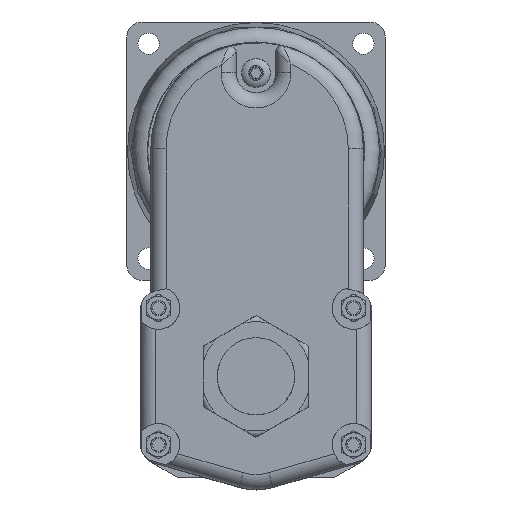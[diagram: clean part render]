
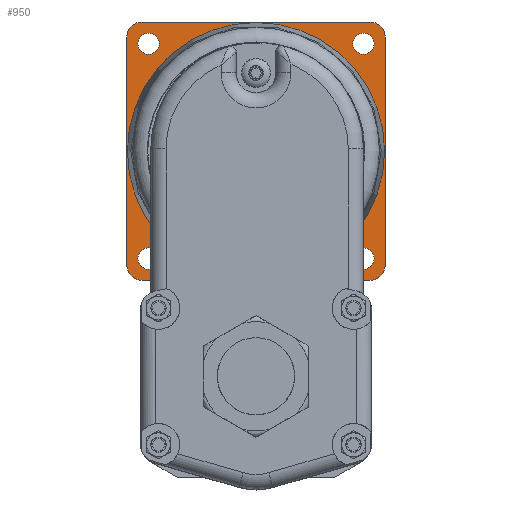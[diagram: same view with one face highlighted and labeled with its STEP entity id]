
A CAD part, top view. The second image highlights one B-rep face of the part: STEP entity #950.
In plain terms, the highlighted planar face has unit normal (0, 0, 1).
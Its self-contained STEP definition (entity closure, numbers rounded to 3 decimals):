
#314 = EDGE_CURVE ( 'NONE', #10910, #10910, #3162, .T. ) ;
#365 = EDGE_CURVE ( 'NONE', #11554, #11557, #5435, .T. ) ;
#369 = EDGE_CURVE ( 'NONE', #10922, #10922, #5443, .T. ) ;
#371 = EDGE_CURVE ( 'NONE', #11559, #11561, #5437, .T. ) ;
#374 = EDGE_CURVE ( 'NONE', #10930, #10930, #5449, .T. ) ;
#375 = EDGE_CURVE ( 'NONE', #11557, #11559, #5451, .T. ) ;
#376 = EDGE_CURVE ( 'NONE', #11561, #11563, #5453, .T. ) ;
#377 = EDGE_CURVE ( 'NONE', #11563, #11562, #5442, .T. ) ;
#378 = EDGE_CURVE ( 'NONE', #11562, #11564, #5455, .T. ) ;
#379 = EDGE_CURVE ( 'NONE', #11564, #11565, #5441, .T. ) ;
#380 = EDGE_CURVE ( 'NONE', #11565, #11554, #5458, .T. ) ;
#382 = EDGE_CURVE ( 'NONE', #10932, #10932, #5460, .T. ) ;
#384 = EDGE_CURVE ( 'NONE', #10934, #10934, #5463, .T. ) ;
#950 = ADVANCED_FACE ( 'NONE', ( #7600, #7603, #7607, #7609, #7604, #7602 ), #7047, .F. ) ;
#1153 = ORIENTED_EDGE ( 'NONE', *, *, #369, .F. ) ;
#1154 = ORIENTED_EDGE ( 'NONE', *, *, #374, .F. ) ;
#1155 = ORIENTED_EDGE ( 'NONE', *, *, #365, .T. ) ;
#1156 = ORIENTED_EDGE ( 'NONE', *, *, #375, .T. ) ;
#1157 = ORIENTED_EDGE ( 'NONE', *, *, #371, .T. ) ;
#1158 = ORIENTED_EDGE ( 'NONE', *, *, #376, .T. ) ;
#1159 = ORIENTED_EDGE ( 'NONE', *, *, #377, .T. ) ;
#1160 = ORIENTED_EDGE ( 'NONE', *, *, #378, .T. ) ;
#1161 = ORIENTED_EDGE ( 'NONE', *, *, #379, .T. ) ;
#1162 = ORIENTED_EDGE ( 'NONE', *, *, #380, .T. ) ;
#1163 = ORIENTED_EDGE ( 'NONE', *, *, #382, .F. ) ;
#1164 = ORIENTED_EDGE ( 'NONE', *, *, #384, .F. ) ;
#1165 = ORIENTED_EDGE ( 'NONE', *, *, #314, .T. ) ;
#2070 = EDGE_LOOP ( 'NONE', ( #1165 ) ) ;
#2071 = EDGE_LOOP ( 'NONE', ( #1164 ) ) ;
#2072 = EDGE_LOOP ( 'NONE', ( #1163 ) ) ;
#2073 = EDGE_LOOP ( 'NONE', ( #1155, #1156, #1157, #1158, #1159, #1160, #1161, #1162 ) ) ;
#2074 = EDGE_LOOP ( 'NONE', ( #1154 ) ) ;
#2081 = EDGE_LOOP ( 'NONE', ( #1153 ) ) ;
#3162 = CIRCLE ( 'NONE', #3492, 42.331 ) ;
#3492 = AXIS2_PLACEMENT_3D ( 'NONE', #4278, #4286, #4287 ) ;
#3519 = AXIS2_PLACEMENT_3D ( 'NONE', #4456, #4457, #4458 ) ;
#3522 = AXIS2_PLACEMENT_3D ( 'NONE', #4417, #4418, #4419 ) ;
#3526 = AXIS2_PLACEMENT_3D ( 'NONE', #4431, #4438, #4439 ) ;
#3528 = AXIS2_PLACEMENT_3D ( 'NONE', #4409, #4432, #4433 ) ;
#3529 = AXIS2_PLACEMENT_3D ( 'NONE', #4428, #4435, #4436 ) ;
#3530 = AXIS2_PLACEMENT_3D ( 'NONE', #4434, #4443, #4444 ) ;
#3531 = AXIS2_PLACEMENT_3D ( 'NONE', #4437, #4448, #4449 ) ;
#3532 = AXIS2_PLACEMENT_3D ( 'NONE', #4442, #4452, #4453 ) ;
#4278 = CARTESIAN_POINT ( 'NONE',  ( 0., 74.4, -11.3 ) ) ;
#4286 = DIRECTION ( 'NONE',  ( 0., 0., -1. ) ) ;
#4287 = DIRECTION ( 'NONE',  ( -1., 0., 0. ) ) ;
#4406 = CARTESIAN_POINT ( 'NONE',  ( -42.5, 116.9, -11.3 ) ) ;
#4407 = DIRECTION ( 'NONE',  ( 0., -1., 0. ) ) ;
#4409 = CARTESIAN_POINT ( 'NONE',  ( -35.355, 39.045, -11.3 ) ) ;
#4417 = CARTESIAN_POINT ( 'NONE',  ( 35.355, 109.755, -11.3 ) ) ;
#4418 = DIRECTION ( 'NONE',  ( 0., 0., 1. ) ) ;
#4419 = DIRECTION ( 'NONE',  ( 1., 0., 0. ) ) ;
#4423 = CARTESIAN_POINT ( 'NONE',  ( -42.5, 31.9, -11.3 ) ) ;
#4424 = DIRECTION ( 'NONE',  ( 1., 0., 0. ) ) ;
#4428 = CARTESIAN_POINT ( 'NONE',  ( -37.5, 36.9, -11.3 ) ) ;
#4431 = CARTESIAN_POINT ( 'NONE',  ( 37.5, 36.9, -11.3 ) ) ;
#4432 = DIRECTION ( 'NONE',  ( 0., 0., 1. ) ) ;
#4433 = DIRECTION ( 'NONE',  ( 1., 0., 0. ) ) ;
#4434 = CARTESIAN_POINT ( 'NONE',  ( 37.5, 111.9, -11.3 ) ) ;
#4435 = DIRECTION ( 'NONE',  ( 0., 0., 1. ) ) ;
#4436 = DIRECTION ( 'NONE',  ( -1., 0., 0. ) ) ;
#4437 = CARTESIAN_POINT ( 'NONE',  ( -37.5, 111.9, -11.3 ) ) ;
#4438 = DIRECTION ( 'NONE',  ( 0., 0., 1. ) ) ;
#4439 = DIRECTION ( 'NONE',  ( -1., 0., 0. ) ) ;
#4440 = CARTESIAN_POINT ( 'NONE',  ( 42.5, 116.9, -11.3 ) ) ;
#4441 = DIRECTION ( 'NONE',  ( 0., 1., 0. ) ) ;
#4442 = CARTESIAN_POINT ( 'NONE',  ( 35.355, 39.045, -11.3 ) ) ;
#4443 = DIRECTION ( 'NONE',  ( 0., 0., 1. ) ) ;
#4444 = DIRECTION ( 'NONE',  ( -1., 0., 0. ) ) ;
#4445 = CARTESIAN_POINT ( 'NONE',  ( -42.5, 116.9, -11.3 ) ) ;
#4446 = DIRECTION ( 'NONE',  ( -1., 0., 0. ) ) ;
#4448 = DIRECTION ( 'NONE',  ( 0., 0., 1. ) ) ;
#4449 = DIRECTION ( 'NONE',  ( -1., 0., 0. ) ) ;
#4452 = DIRECTION ( 'NONE',  ( 0., 0., 1. ) ) ;
#4453 = DIRECTION ( 'NONE',  ( 1., 0., 0. ) ) ;
#4456 = CARTESIAN_POINT ( 'NONE',  ( -35.355, 109.755, -11.3 ) ) ;
#4457 = DIRECTION ( 'NONE',  ( 0., 0., 1. ) ) ;
#4458 = DIRECTION ( 'NONE',  ( 1., 0., 0. ) ) ;
#5435 = LINE ( 'NONE', #4406, #5436 ) ;
#5436 = VECTOR ( 'NONE', #4407, 1000. ) ;
#5437 = LINE ( 'NONE', #4423, #5444 ) ;
#5441 = LINE ( 'NONE', #4445, #5452 ) ;
#5442 = LINE ( 'NONE', #4440, #5450 ) ;
#5443 = CIRCLE ( 'NONE', #3522, 3.5 ) ;
#5444 = VECTOR ( 'NONE', #4424, 1000. ) ;
#5449 = CIRCLE ( 'NONE', #3528, 3.5 ) ;
#5450 = VECTOR ( 'NONE', #4441, 1000. ) ;
#5451 = CIRCLE ( 'NONE', #3529, 5. ) ;
#5452 = VECTOR ( 'NONE', #4446, 1000. ) ;
#5453 = CIRCLE ( 'NONE', #3526, 5. ) ;
#5455 = CIRCLE ( 'NONE', #3530, 5. ) ;
#5458 = CIRCLE ( 'NONE', #3531, 5. ) ;
#5460 = CIRCLE ( 'NONE', #3532, 3.5 ) ;
#5463 = CIRCLE ( 'NONE', #3519, 3.5 ) ;
#7046 = CARTESIAN_POINT ( 'NONE',  ( 42.5, 116.9, -11.3 ) ) ;
#7047 = PLANE ( 'NONE',  #7876 ) ;
#7049 = DIRECTION ( 'NONE',  ( 0., 0., -1. ) ) ;
#7050 = DIRECTION ( 'NONE',  ( -1., 0., 0. ) ) ;
#7600 = FACE_BOUND ( 'NONE', #2081, .T. ) ;
#7602 = FACE_BOUND ( 'NONE', #2070, .T. ) ;
#7603 = FACE_BOUND ( 'NONE', #2074, .T. ) ;
#7604 = FACE_BOUND ( 'NONE', #2071, .T. ) ;
#7607 = FACE_OUTER_BOUND ( 'NONE', #2073, .T. ) ;
#7609 = FACE_BOUND ( 'NONE', #2072, .T. ) ;
#7876 = AXIS2_PLACEMENT_3D ( 'NONE', #7046, #7049, #7050 ) ;
#10640 = CARTESIAN_POINT ( 'NONE',  ( -42.5, 111.9, -11.3 ) ) ;
#10643 = CARTESIAN_POINT ( 'NONE',  ( -42.5, 36.9, -11.3 ) ) ;
#10645 = CARTESIAN_POINT ( 'NONE',  ( -37.5, 31.9, -11.3 ) ) ;
#10647 = CARTESIAN_POINT ( 'NONE',  ( 37.5, 31.9, -11.3 ) ) ;
#10648 = CARTESIAN_POINT ( 'NONE',  ( 42.5, 111.9, -11.3 ) ) ;
#10649 = CARTESIAN_POINT ( 'NONE',  ( 42.5, 36.9, -11.3 ) ) ;
#10650 = CARTESIAN_POINT ( 'NONE',  ( 37.5, 116.9, -11.3 ) ) ;
#10651 = CARTESIAN_POINT ( 'NONE',  ( -37.5, 116.9, -11.3 ) ) ;
#10910 = VERTEX_POINT ( 'NONE', #10911 ) ;
#10911 = CARTESIAN_POINT ( 'NONE',  ( -42.331, 74.4, -11.3 ) ) ;
#10922 = VERTEX_POINT ( 'NONE', #10923 ) ;
#10923 = CARTESIAN_POINT ( 'NONE',  ( 38.855, 109.755, -11.3 ) ) ;
#10930 = VERTEX_POINT ( 'NONE', #10931 ) ;
#10931 = CARTESIAN_POINT ( 'NONE',  ( -31.855, 39.045, -11.3 ) ) ;
#10932 = VERTEX_POINT ( 'NONE', #10933 ) ;
#10933 = CARTESIAN_POINT ( 'NONE',  ( 38.855, 39.045, -11.3 ) ) ;
#10934 = VERTEX_POINT ( 'NONE', #10935 ) ;
#10935 = CARTESIAN_POINT ( 'NONE',  ( -31.855, 109.755, -11.3 ) ) ;
#11554 = VERTEX_POINT ( 'NONE', #10640 ) ;
#11557 = VERTEX_POINT ( 'NONE', #10643 ) ;
#11559 = VERTEX_POINT ( 'NONE', #10645 ) ;
#11561 = VERTEX_POINT ( 'NONE', #10647 ) ;
#11562 = VERTEX_POINT ( 'NONE', #10648 ) ;
#11563 = VERTEX_POINT ( 'NONE', #10649 ) ;
#11564 = VERTEX_POINT ( 'NONE', #10650 ) ;
#11565 = VERTEX_POINT ( 'NONE', #10651 ) ;
